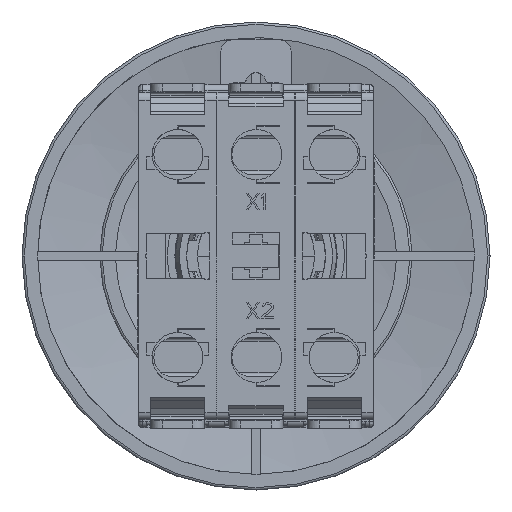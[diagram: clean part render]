
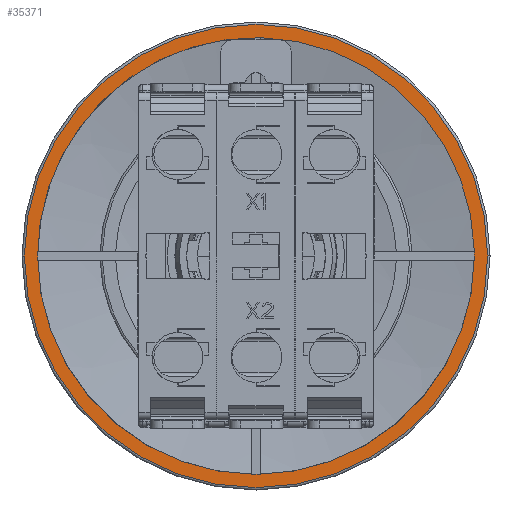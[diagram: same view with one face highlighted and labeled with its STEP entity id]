
A CAD part, front view. The second image highlights one B-rep face of the part: STEP entity #35371.
In plain terms, the highlighted planar face has unit normal (0, -1, 0) as drawn and (0, 0, -1) by its records, which use the part's own axes.
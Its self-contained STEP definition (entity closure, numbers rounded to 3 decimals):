
#2611 = ORIENTED_EDGE ( 'NONE', *, *, #75478, .F. ) ;
#3348 = CARTESIAN_POINT ( 'NONE',  ( 0., 0., 42.499 ) ) ;
#4414 = CARTESIAN_POINT ( 'NONE',  ( 0., 0., 42.499 ) ) ;
#5580 = CARTESIAN_POINT ( 'NONE',  ( 0., 0., 42.499 ) ) ;
#6109 = VERTEX_POINT ( 'NONE', #51634 ) ;
#7334 = ORIENTED_EDGE ( 'NONE', *, *, #102189, .T. ) ;
#9517 = DIRECTION ( 'NONE',  ( 0., 0., 1. ) ) ;
#10775 = CARTESIAN_POINT ( 'NONE',  ( -27.994, 0.6, 42.499 ) ) ;
#11656 = EDGE_CURVE ( 'NONE', #85571, #63848, #42285, .T. ) ;
#12261 = EDGE_LOOP ( 'NONE', ( #51807, #96745, #7334, #86309 ) ) ;
#12712 = DIRECTION ( 'NONE',  ( 1., 0., 0. ) ) ;
#13510 = CARTESIAN_POINT ( 'NONE',  ( 0., 0., 42.499 ) ) ;
#13603 = CIRCLE ( 'NONE', #92506, 28. ) ;
#21251 = DIRECTION ( 'NONE',  ( 0., 0., 1. ) ) ;
#22969 = FACE_OUTER_BOUND ( 'NONE', #27132, .T. ) ;
#23021 = AXIS2_PLACEMENT_3D ( 'NONE', #4414, #52723, #36446 ) ;
#25583 = VERTEX_POINT ( 'NONE', #10775 ) ;
#27132 = EDGE_LOOP ( 'NONE', ( #2611, #75114 ) ) ;
#27204 = DIRECTION ( 'NONE',  ( -0.021, 1., 0. ) ) ;
#28639 = CARTESIAN_POINT ( 'NONE',  ( -28., 0., 42.499 ) ) ;
#29584 = CARTESIAN_POINT ( 'NONE',  ( -0.6, 27.994, 42.499 ) ) ;
#30756 = DIRECTION ( 'NONE',  ( -1., 0.021, 0. ) ) ;
#33532 = CIRCLE ( 'NONE', #46952, 29.7 ) ;
#34637 = VERTEX_POINT ( 'NONE', #28639 ) ;
#35371 = ADVANCED_FACE ( 'NONE', ( #39761, #22969 ), #71821, .T. ) ;
#36446 = DIRECTION ( 'NONE',  ( -1., 0.021, 0. ) ) ;
#36644 = VERTEX_POINT ( 'NONE', #29584 ) ;
#39535 = CARTESIAN_POINT ( 'NONE',  ( -29.7, 0., 42.499 ) ) ;
#39761 = FACE_BOUND ( 'NONE', #12261, .T. ) ;
#42285 = CIRCLE ( 'NONE', #70786, 29.7 ) ;
#46952 = AXIS2_PLACEMENT_3D ( 'NONE', #3348, #76856, #12712 ) ;
#51634 = CARTESIAN_POINT ( 'NONE',  ( 28., 0., 42.499 ) ) ;
#51807 = ORIENTED_EDGE ( 'NONE', *, *, #62310, .T. ) ;
#52723 = DIRECTION ( 'NONE',  ( 0., 0., 1. ) ) ;
#53469 = DIRECTION ( 'NONE',  ( 0., 0., -1. ) ) ;
#55028 = DIRECTION ( 'NONE',  ( 0., -1., 0. ) ) ;
#56662 = AXIS2_PLACEMENT_3D ( 'NONE', #5580, #69669, #30756 ) ;
#56947 = EDGE_CURVE ( 'NONE', #6109, #36644, #100282, .T. ) ;
#60571 = CARTESIAN_POINT ( 'NONE',  ( 0., 0., 42.499 ) ) ;
#62310 = EDGE_CURVE ( 'NONE', #36644, #25583, #84018, .T. ) ;
#62805 = EDGE_CURVE ( 'NONE', #25583, #34637, #13603, .T. ) ;
#63848 = VERTEX_POINT ( 'NONE', #79188 ) ;
#66742 = CIRCLE ( 'NONE', #56662, 28. ) ;
#69669 = DIRECTION ( 'NONE',  ( 0., 0., 1. ) ) ;
#70786 = AXIS2_PLACEMENT_3D ( 'NONE', #83599, #9517, #74153 ) ;
#71821 = PLANE ( 'NONE',  #73806 ) ;
#73806 = AXIS2_PLACEMENT_3D ( 'NONE', #13510, #53469, #55028 ) ;
#74153 = DIRECTION ( 'NONE',  ( -1., 0., 0. ) ) ;
#75056 = CARTESIAN_POINT ( 'NONE',  ( 0., 0., 42.499 ) ) ;
#75114 = ORIENTED_EDGE ( 'NONE', *, *, #11656, .F. ) ;
#75478 = EDGE_CURVE ( 'NONE', #63848, #85571, #33532, .T. ) ;
#76856 = DIRECTION ( 'NONE',  ( 0., 0., 1. ) ) ;
#79188 = CARTESIAN_POINT ( 'NONE',  ( 29.7, 0., 42.499 ) ) ;
#83599 = CARTESIAN_POINT ( 'NONE',  ( 0., 0., 42.499 ) ) ;
#84018 = CIRCLE ( 'NONE', #90801, 28. ) ;
#85571 = VERTEX_POINT ( 'NONE', #39535 ) ;
#86309 = ORIENTED_EDGE ( 'NONE', *, *, #56947, .T. ) ;
#90801 = AXIS2_PLACEMENT_3D ( 'NONE', #75056, #21251, #27204 ) ;
#92129 = DIRECTION ( 'NONE',  ( 0., 0., 1. ) ) ;
#92506 = AXIS2_PLACEMENT_3D ( 'NONE', #60571, #92129, #99006 ) ;
#96745 = ORIENTED_EDGE ( 'NONE', *, *, #62805, .T. ) ;
#99006 = DIRECTION ( 'NONE',  ( -1., 0.021, 0. ) ) ;
#100282 = CIRCLE ( 'NONE', #23021, 28. ) ;
#102189 = EDGE_CURVE ( 'NONE', #34637, #6109, #66742, .T. ) ;
